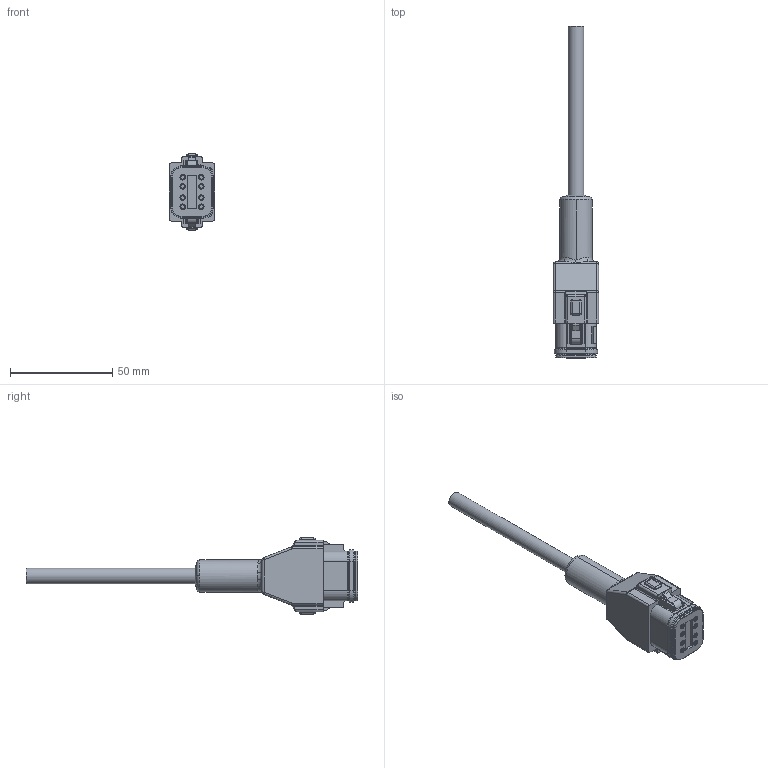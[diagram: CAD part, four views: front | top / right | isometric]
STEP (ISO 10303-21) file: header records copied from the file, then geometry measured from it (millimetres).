
FILE_DESCRIPTION(/* description */ (''),/* implementation_level */ '2;1');
FILE_NAME(/* name */ 'L1HC00.B_D_1-Kabelsatz.stp',/* time_stamp */ '2020-02-13T13:52:27+01:00',/* author */ (''),/* organization */ (''),/* preprocessor_version */ 'ST-DEVELOPER v16',/* originating_system */ 'SIEMENS PLM Software NX 11.0',/* authorisation */ '');
FILE_SCHEMA (('AP203_CONFIGURATION_CONTROLLED_3D_DESIGN_OF_MECHANICAL_PARTS_AND_ASSEMBLIES_MIM_LF { 1 0 10303 403 2 1 2}'));
Length unit declared in the file: millimetre
Products named in the file (1): hi2n1C48DBE9mnbr
Bounding box: 22.09 x 162.28 x 37.21 mm (x, y, z)
Volume: 37494.2 mm3; surface area: 11423.1 mm2
Topology: 2 solids, 2 shells, 478 faces, 1196 edges, 731 vertices
Faces by surface type: plane 190, cylinder 170, torus 52, bspline 32, cone 18, sphere 16
Full cylindrical faces by diameter (mm): 7.5 x1
Entity records: 18161 total; most frequent: CARTESIAN_POINT 6621, DIRECTION 2440, ORIENTED_EDGE 2390, EDGE_CURVE 1195, AXIS2_PLACEMENT_3D 876, VERTEX_POINT 731, LINE 688, VECTOR 688
